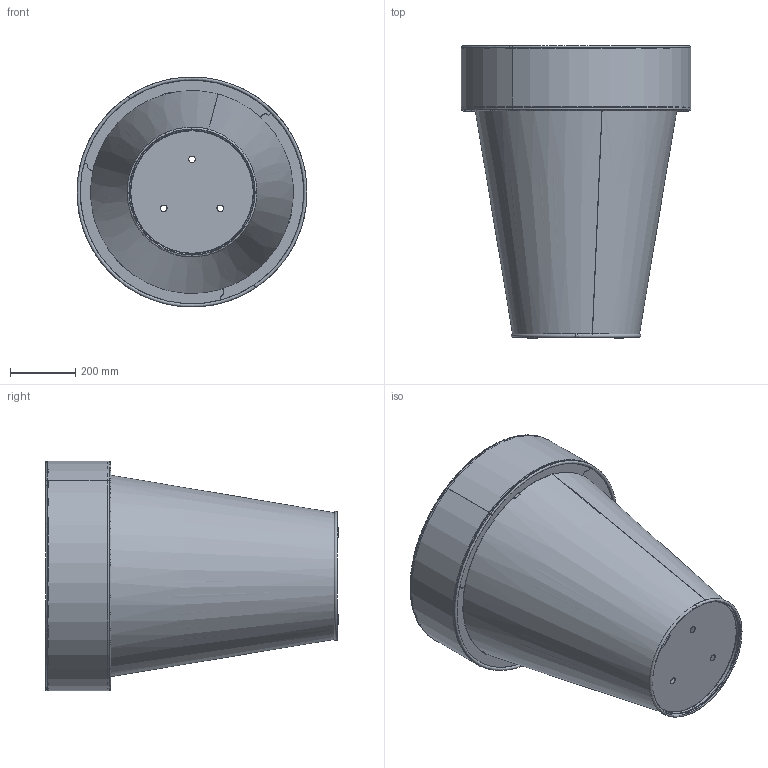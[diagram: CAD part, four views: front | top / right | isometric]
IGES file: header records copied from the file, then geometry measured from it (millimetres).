
Start section: SolidWorks IGES file using analytic representation for surfaces
Global section: file name: \\utenti\Dati Utenti\Tecnico\DC\2D - 3D per sito\3D\DeCastelli-3D-Omega 90.igs; native system: SolidWorks 2022; preprocessor: SolidWorks 2022; author: Simonep; date: 240807.172529; units: millimetre
Bounding box: 705.73 x 897.6 x 705.43 mm (x, y, z)
Surface area: 4408378.1 mm2 (no closed solid volume)
Topology: 0 solids, 0 shells, 105 faces, 1502 edges, 1502 vertices
Faces by surface type: bspline 77, revolution 28
